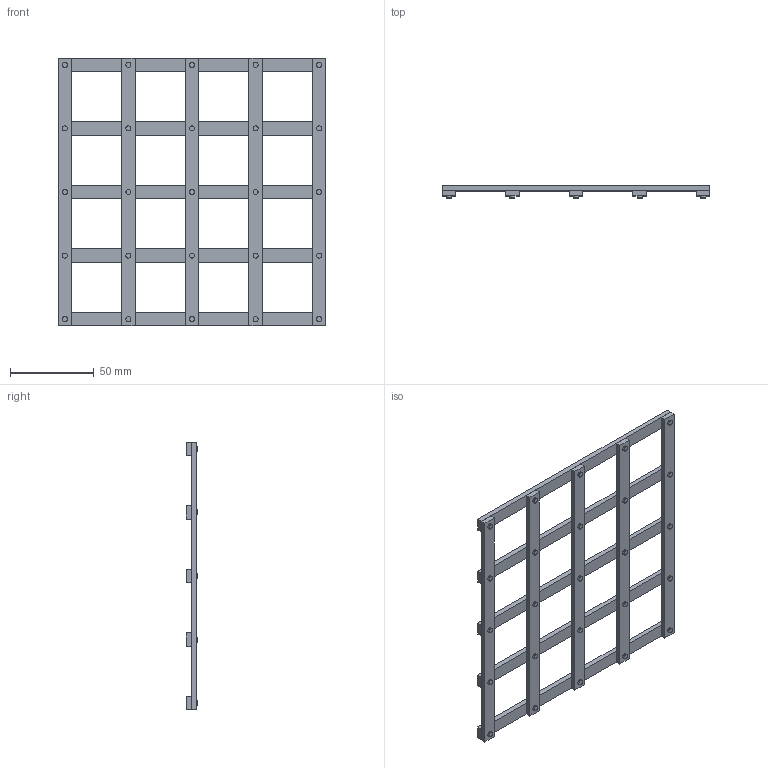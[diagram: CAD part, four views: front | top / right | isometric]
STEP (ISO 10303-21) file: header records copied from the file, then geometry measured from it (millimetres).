
FILE_DESCRIPTION(/* description */ (''),/* implementation_level */ '2;1');
FILE_NAME(/* name */ 'GE-CULK.step',/* time_stamp */ '2025-12-16T16:25:35+03:00',/* author */ (''),/* organization */ (''),/* preprocessor_version */ 'ST-DEVELOPER v20.1',/* originating_system */ 'Autodesk Translation Framework v14.21.0.0',/* authorisation */ '');
FILE_SCHEMA (('AUTOMOTIVE_DESIGN { 1 0 10303 214 3 1 1 }'));
Length unit declared in the file: millimetre
Products named in the file (1): GE-CULK
Bounding box: 160 x 7 x 160 mm (x, y, z)
Volume: 38576.7 mm3; surface area: 36057 mm2
Topology: 20 solids, 20 shells, 120 faces, 195 edges, 130 vertices
Faces by surface type: plane 95, cylinder 25
Full cylindrical faces by diameter (mm): 3 x25
Entity records: 2763 total; most frequent: DIRECTION 487, CARTESIAN_POINT 446, ORIENTED_EDGE 390, EDGE_CURVE 195, AXIS2_PLACEMENT_3D 171, LINE 145, VECTOR 145, EDGE_LOOP 135
